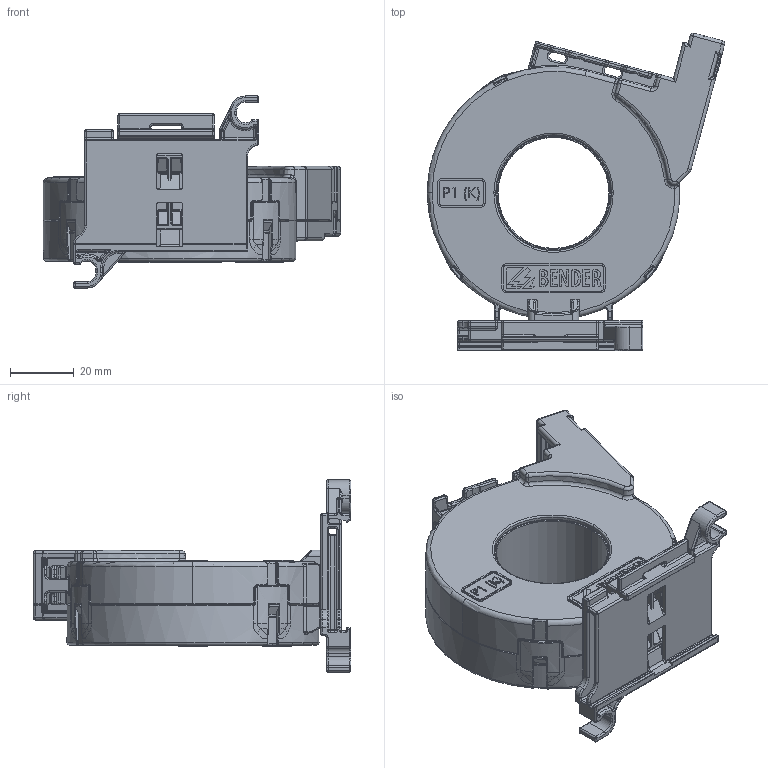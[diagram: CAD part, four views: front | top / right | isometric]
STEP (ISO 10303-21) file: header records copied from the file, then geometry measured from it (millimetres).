
FILE_DESCRIPTION (( 'STEP AP214' ), '1' );
FILE_NAME ('CTAC35.STEP', '2019-04-11T11:07:02', ( 'Administrator' ), ( '' ), 'SwSTEP 2.0', 'SolidWorks 2019', '' );
FILE_SCHEMA (( 'AUTOMOTIVE_DESIGN' ));
Length unit declared in the file: millimetre
Products named in the file (4): Z152511.03_Montageclip_MCCT35; Z152515.04_Geh.CTAC35UT_W35S - RAL 1003; Z152516.01_Geh.CTxC35OT_Geh._W35OT - RAL 7022; CTAC35
Assembly tree (3 placements, depth 2):
  CTAC35
    Z152515.04_Geh.CTAC35UT_W35S - RAL 1003
    Z152516.01_Geh.CTxC35OT_Geh._W35OT - RAL 7022
    Z152511.03_Montageclip_MCCT35
Bounding box: 93.66 x 100.09 x 60.5 mm (x, y, z)
Volume: 42357.6 mm3; surface area: 60295.4 mm2
Topology: 3 solids, 6 shells, 4518 faces, 11214 edges, 6620 vertices
Faces by surface type: plane 1260, bspline 1253, cylinder 1236, torus 560, sphere 195, cone 14
Entity records: 172443 total; most frequent: CARTESIAN_POINT 74748, ORIENTED_EDGE 21868, DIRECTION 18180, EDGE_CURVE 10934, AXIS2_PLACEMENT_3D 6630, VERTEX_POINT 6589, VECTOR 4920, LINE 4920
